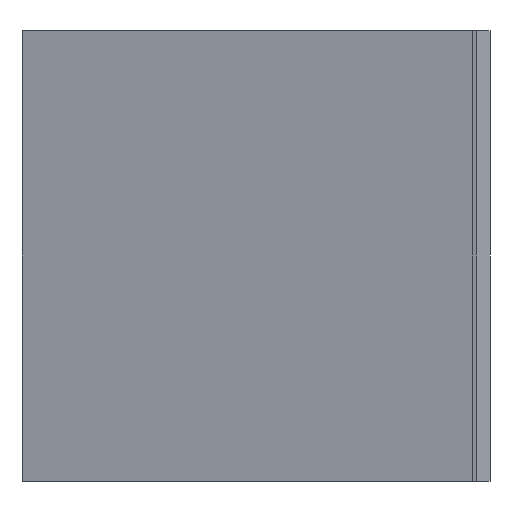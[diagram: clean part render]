
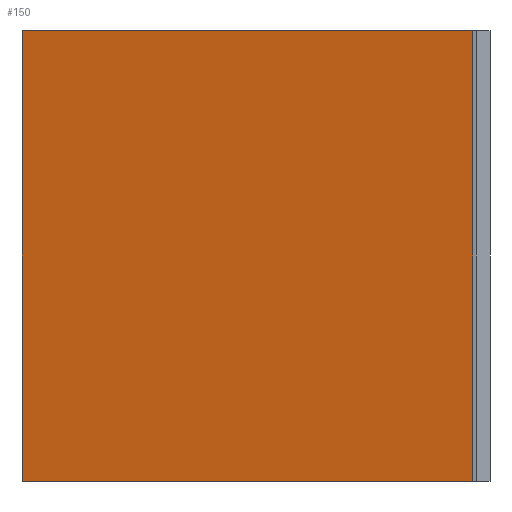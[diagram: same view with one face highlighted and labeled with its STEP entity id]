
A CAD part, left-side view. The second image highlights one B-rep face of the part: STEP entity #150.
In plain terms, the highlighted planar face has unit normal (0.972, -0.234, 0).
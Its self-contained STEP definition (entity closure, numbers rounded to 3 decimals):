
#98=CARTESIAN_POINT('Vertex',(20.,0.,0.)) ;
#101=CARTESIAN_POINT('Line Origine',(20.,0.,64.5)) ;
#105=CARTESIAN_POINT('Vertex',(20.,0.,129.)) ;
#120=CARTESIAN_POINT('Axis2P3D Location',(20.,0.,0.)) ;
#125=CARTESIAN_POINT('Line Origine',(35.5,64.5,0.)) ;
#129=CARTESIAN_POINT('Vertex',(51.,129.,0.)) ;
#132=CARTESIAN_POINT('Line Origine',(51.,129.,64.5)) ;
#136=CARTESIAN_POINT('Vertex',(51.,129.,129.)) ;
#139=CARTESIAN_POINT('Line Origine',(35.5,64.5,129.)) ;
#102=DIRECTION('Vector Direction',(0.,0.,1.)) ;
#121=DIRECTION('Axis2P3D Direction',(0.972,-0.234,0.)) ;
#122=DIRECTION('Axis2P3D XDirection',(0.234,0.972,0.)) ;
#126=DIRECTION('Vector Direction',(0.234,0.972,0.)) ;
#133=DIRECTION('Vector Direction',(0.,0.,1.)) ;
#140=DIRECTION('Vector Direction',(0.234,0.972,0.)) ;
#123=AXIS2_PLACEMENT_3D('Plane Axis2P3D',#120,#121,#122) ;
#145=ORIENTED_EDGE('',*,*,#107,.F.) ;
#146=ORIENTED_EDGE('',*,*,#131,.T.) ;
#147=ORIENTED_EDGE('',*,*,#138,.T.) ;
#148=ORIENTED_EDGE('',*,*,#143,.F.) ;
#103=VECTOR('Line Direction',#102,1.) ;
#127=VECTOR('Line Direction',#126,1.) ;
#134=VECTOR('Line Direction',#133,1.) ;
#141=VECTOR('Line Direction',#140,1.) ;
#150=ADVANCED_FACE('Extrude.1',(#149),#124,.T.) ;
#107=EDGE_CURVE('',#99,#106,#104,.T.) ;
#131=EDGE_CURVE('',#99,#130,#128,.T.) ;
#138=EDGE_CURVE('',#130,#137,#135,.T.) ;
#143=EDGE_CURVE('',#106,#137,#142,.T.) ;
#144=EDGE_LOOP('',(#145,#146,#147,#148)) ;
#149=FACE_OUTER_BOUND('',#144,.T.) ;
#104=LINE('Line',#101,#103) ;
#128=LINE('Line',#125,#127) ;
#135=LINE('Line',#132,#134) ;
#142=LINE('Line',#139,#141) ;
#124=PLANE('',#123) ;
#99=VERTEX_POINT('',#98) ;
#106=VERTEX_POINT('',#105) ;
#130=VERTEX_POINT('',#129) ;
#137=VERTEX_POINT('',#136) ;
